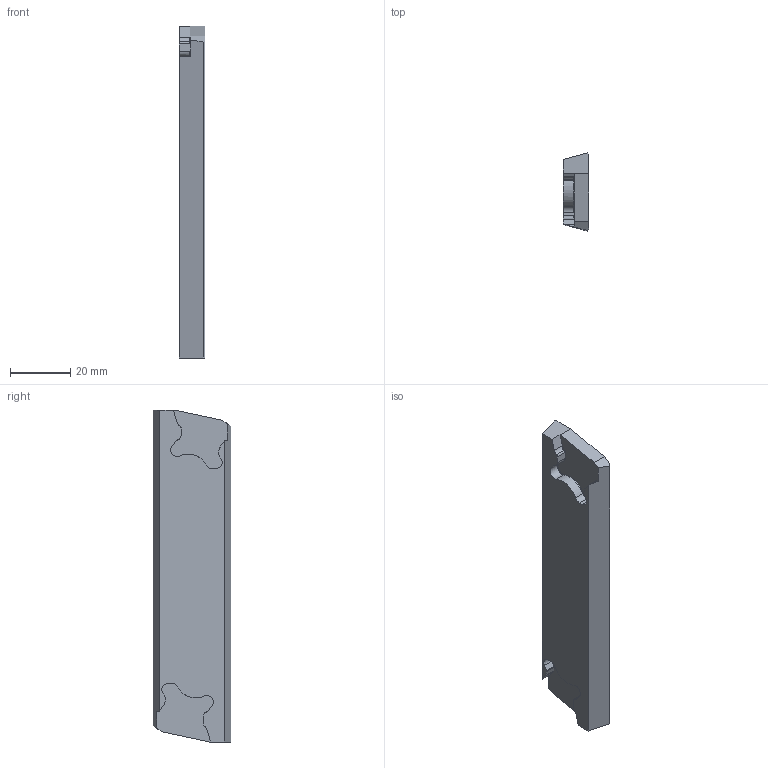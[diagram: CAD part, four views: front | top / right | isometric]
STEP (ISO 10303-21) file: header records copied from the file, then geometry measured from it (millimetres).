
FILE_DESCRIPTION(('CATIA V5 STEP','CAx-IF Rec.Pracs.--- Model Styling and Organization---1.2---2011-12-15'),'2;1');
FILE_NAME('I:\isr\design\admin8\users\raid_s\2301686-D.stp','2014-02-05T07:46:42+00:00',('none'),('none'),'CATIA Version 5 Release 21 SP 5 (IN-10)','CATIA V5 STEP AP214','none');
FILE_SCHEMA(('AUTOMOTIVE_DESIGN { 1 0 10303 214 1 1 1 1 }'));
Length unit declared in the file: millimetre
Products named in the file (1): 620116834_0  PCHBR 26-24L
Bounding box: 8.5 x 25.73 x 110 mm (x, y, z)
Volume: 19827.3 mm3; surface area: 7424.9 mm2
Topology: 1 solids, 1 shells, 79 faces, 225 edges, 148 vertices
Faces by surface type: plane 35, cylinder 22, extrusion 22
Entity records: 2776 total; most frequent: CARTESIAN_POINT 795, ORIENTED_EDGE 450, DIRECTION 312, EDGE_CURVE 225, VECTOR 171, LINE 149, VERTEX_POINT 148, AXIS2_PLACEMENT_3D 87
